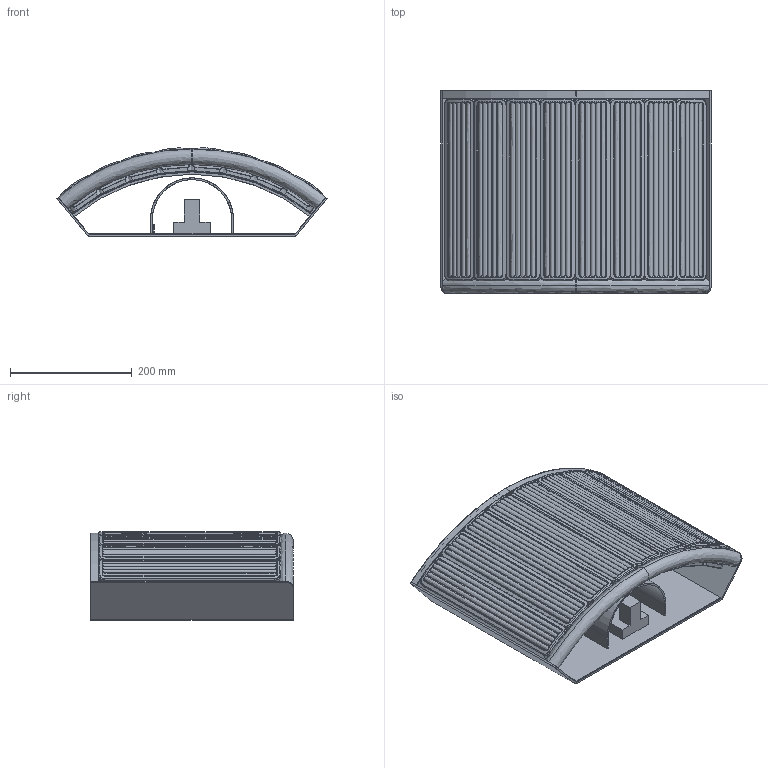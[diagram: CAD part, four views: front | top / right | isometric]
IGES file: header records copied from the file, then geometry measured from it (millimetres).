
Start section: SolidWorks IGES file using NURBS representation for surfaces
Global section: file name: C:\Users\aitor.torredeflot\Desktop\Aplique ESTADIO 3D\Aplique_Walllamp ESTADIO.IGS; native system: SolidWorks 2016; preprocessor: SolidWorks 2016; author: aitor.torredeflot; date: 170912.094919; units: millimetre
Bounding box: 443.52 x 332 x 144.65 mm (x, y, z)
Surface area: 1099574.2 mm2 (no closed solid volume)
Topology: 0 solids, 0 shells, 843 faces, 7679 edges, 7679 vertices
Faces by surface type: bspline 843
